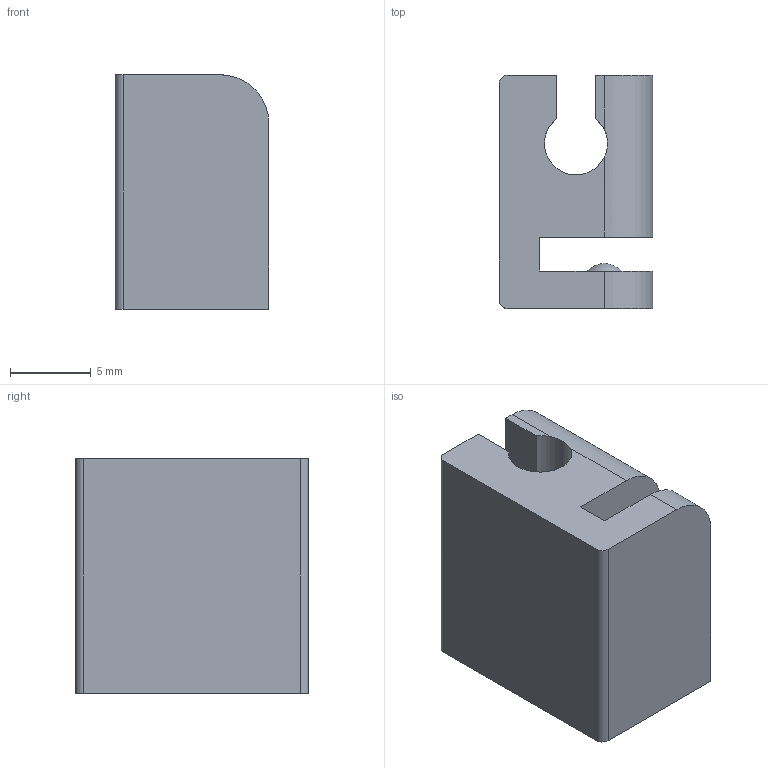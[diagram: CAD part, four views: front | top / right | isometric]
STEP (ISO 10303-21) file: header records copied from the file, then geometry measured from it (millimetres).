
FILE_DESCRIPTION (( 'STEP AP214' ), '1' );
FILE_NAME ('Traegerteil_high.STEP', '2024-02-03T08:23:08', ( 'Lenovo' ), ( '' ), 'SwSTEP 2.0', 'SolidWorks 2019', '' );
FILE_SCHEMA (( 'AUTOMOTIVE_DESIGN' ));
Length unit declared in the file: millimetre
Products named in the file (1): Traegerteil_high
Bounding box: 9.5 x 14.4 x 14.5 mm (x, y, z)
Volume: 1489.9 mm3; surface area: 1258.2 mm2
Topology: 1 solids, 1 shells, 23 faces, 63 edges, 41 vertices
Faces by surface type: plane 14, cylinder 7, torus 2
Entity records: 759 total; most frequent: CARTESIAN_POINT 134, DIRECTION 125, ORIENTED_EDGE 122, EDGE_CURVE 61, AXIS2_PLACEMENT_3D 42, VERTEX_POINT 41, VECTOR 41, LINE 41
